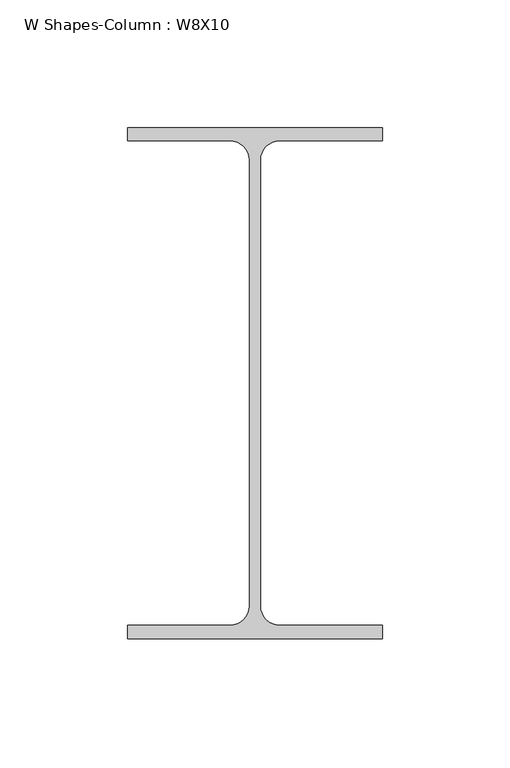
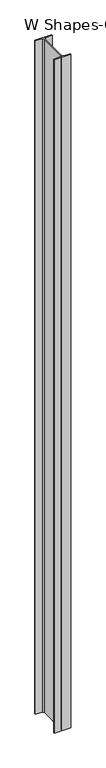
"""IFC4 building model written with IfcOpenShell, lengths in millimetres: column geometry, W Shapes-Column : W8X10."""

from ifc_helpers import new_model, si_unit, point, frame, frame_2d, origin, place, context, project, spatial, polyline, circle_curve, trimmed, segment, composite_curve, outline, extrude, source, transform, mapped, element, save


def w_shapes_column_w8x10_2de26a70(model_context):
    return source(origin(), model_context, "Body", "SweptSolid", [
        extrude(outline(composite_curve([segment(polyline([(50.038, 100.203), (50.038, 94.996), (9.779, 94.996)]), True, "CONTINUOUS"), segment(trimmed(circle_curve(frame_2d((9.779, 87.376)), 7.62), [point((9.779, 94.996))], [point((2.159, 87.376))], True, "CARTESIAN"), True, "CONTINUOUS"), segment(polyline([(2.159, 87.376), (2.159, -87.376)]), True, "CONTINUOUS"), segment(trimmed(circle_curve(frame_2d((9.779, -87.376)), 7.62), [point((2.159, -87.376))], [point((9.779, -94.996))], True, "CARTESIAN"), True, "CONTINUOUS"), segment(polyline([(9.779, -94.996), (50.038, -94.996), (50.038, -100.203), (-50.038, -100.203), (-50.038, -94.996), (-9.779, -94.996)]), True, "CONTINUOUS"), segment(trimmed(circle_curve(frame_2d((-9.779, -87.376)), 7.62), [point((-9.779, -94.996))], [point((-2.159, -87.376))], True, "CARTESIAN"), True, "CONTINUOUS"), segment(polyline([(-2.159, -87.376), (-2.159, 87.376)]), True, "CONTINUOUS"), segment(trimmed(circle_curve(frame_2d((-9.779, 87.376)), 7.62), [point((-2.159, 87.376))], [point((-9.779, 94.996))], True, "CARTESIAN"), True, "CONTINUOUS"), segment(polyline([(-9.779, 94.996), (-50.038, 94.996), (-50.038, 100.203), (50.038, 100.203)]), True, "CONTINUOUS")], self_intersect=False)), frame((0.0, 0.0, -1219.2), z_axis=(0.0, 0.0, 1.0), x_axis=(1.0, 0.0, 0.0)), (0.0, 0.0, 1.0), 4267.2),
    ])


if __name__ == "__main__":
    model = new_model("IFC4")
    model_context = context("Model", 3, world=origin())
    ifc_project = project(units=[si_unit("LENGTHUNIT", "METRE", prefix="MILLI")], contexts=[model_context])
    site = spatial("IfcSite", under=ifc_project)
    building = spatial("IfcBuilding", under=site)
    placement = place(None, origin())
    w_shapes_column_w8x10_shape = w_shapes_column_w8x10_2de26a70(model_context)
    element("IfcColumn", 1, ObjectType="W Shapes-Column : W8X10", at=placement, inside=building, context=model_context, shape_type="MappedRepresentation", body=[
        mapped(w_shapes_column_w8x10_shape, transform((0.0, 0.0, 0.0), x_axis=(1.0, 0.0, 0.0), y_axis=(0.0, 1.0, 0.0), z_axis=(0.0, 0.0, 1.0))),
    ])
    save(model, "model.ifc")
